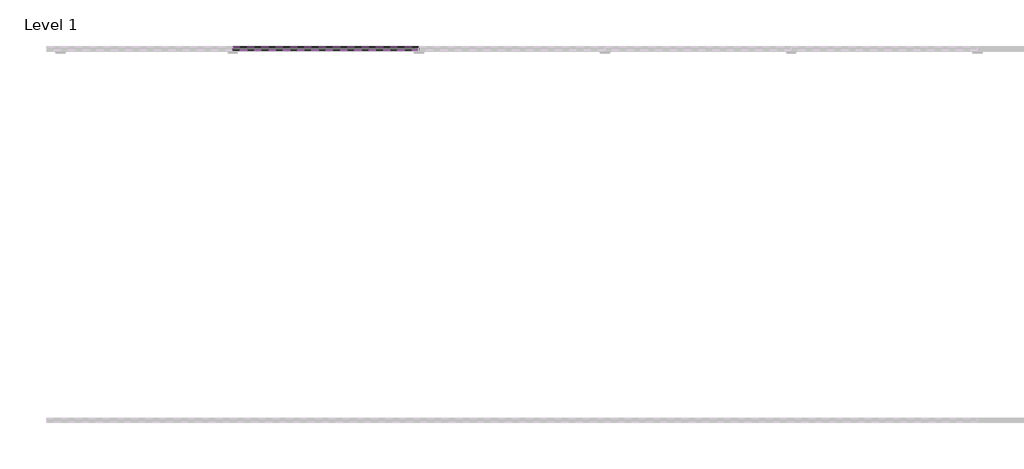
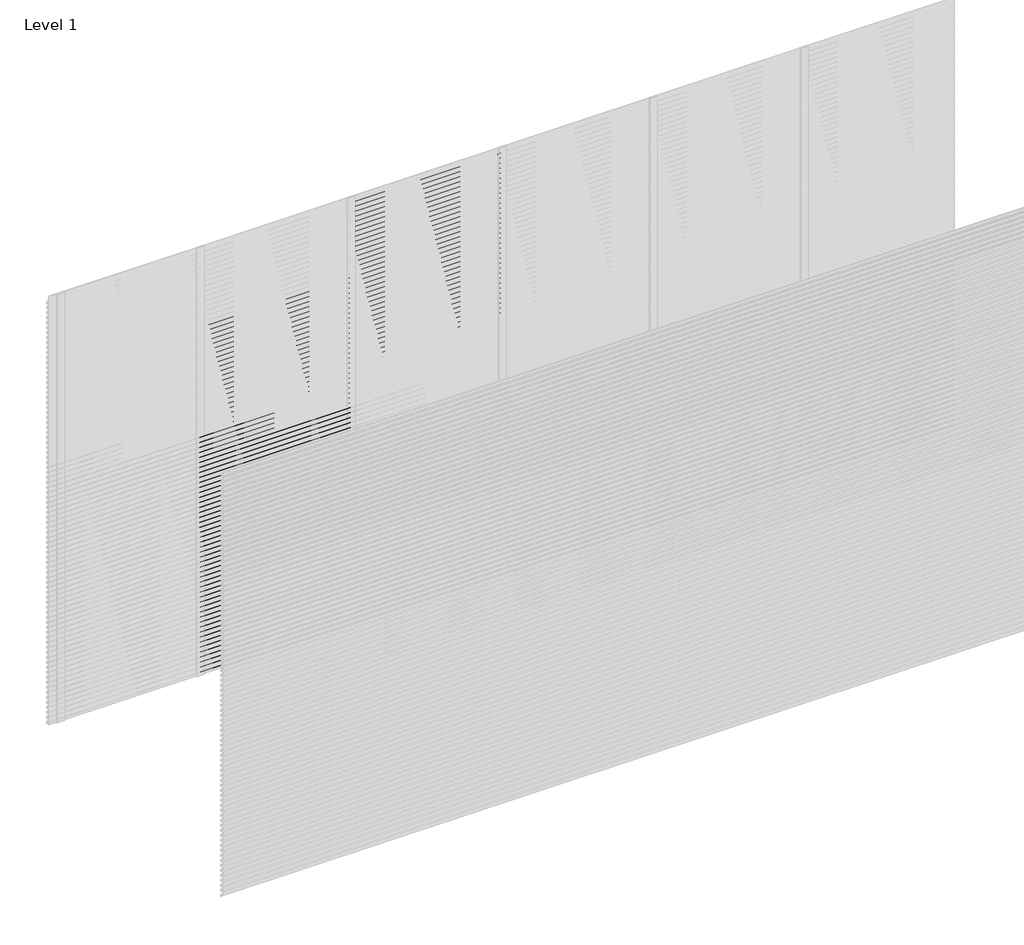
# One storey, part 22 of 25: 103 proxies.
"""IFC4 building model written with IfcOpenShell, lengths in millimetres."""

from ifc_helpers import new_model, si_unit, frame, origin, place, context, project, spatial, polyline, outline, extrude, element, save

model = new_model("IFC4")

# Units and contexts
model_context = context("Model", 3, world=origin())
ifc_project = project(units=[si_unit("LENGTHUNIT", "METRE", prefix="MILLI")], contexts=[model_context])

# Site, building, storey
site = spatial("IfcSite", under=ifc_project)
building = spatial("IfcBuilding", under=site)
storey = spatial("IfcBuildingStorey", under=building, Name="Level 1", Elevation=0.0)

# Proxies
placement = place(None, origin())
element("IfcBuildingElementProxy", 1, Name="Wall Sweeps", at=placement, inside=storey, context=model_context, shape_type="SweptSolid", body=[
    extrude(outline(polyline([(5.0, 2450.0), (5.0, 2438.942893), (24.0, 2423.0), (24.0, 2410.0), (3.0, 2427.6210923), (3.0, 2450.0), (5.0, 2450.0)])), frame((1000.0, 0.0, 0.0), z_axis=(1.0, 0.0, 0.0), x_axis=(0.0, 1.0, 0.0)), (0.0, 0.0, 1.0), 1000.0),
])
element("IfcBuildingElementProxy", 2, Name="Wall Sweeps", at=placement, inside=storey, context=model_context, shape_type="SweptSolid", body=[
    extrude(outline(polyline([(5.0, 2415.0), (5.0, 2403.942893), (24.0, 2388.0), (24.0, 2375.0), (3.0, 2392.6210923), (3.0, 2415.0), (5.0, 2415.0)])), frame((1000.0, 0.0, 0.0), z_axis=(1.0, 0.0, 0.0), x_axis=(0.0, 1.0, 0.0)), (0.0, 0.0, 1.0), 1000.0),
])
element("IfcBuildingElementProxy", 3, Name="Wall Sweeps", at=placement, inside=storey, context=model_context, shape_type="SweptSolid", body=[
    extrude(outline(polyline([(5.0, 2380.0), (5.0, 2368.942893), (24.0, 2353.0), (24.0, 2340.0), (3.0, 2357.6210923), (3.0, 2380.0), (5.0, 2380.0)])), frame((1000.0, 0.0, 0.0), z_axis=(1.0, 0.0, 0.0), x_axis=(0.0, 1.0, 0.0)), (0.0, 0.0, 1.0), 1000.0),
])
element("IfcBuildingElementProxy", 4, Name="Wall Sweeps", at=placement, inside=storey, context=model_context, shape_type="SweptSolid", body=[
    extrude(outline(polyline([(5.0, 2345.0), (5.0, 2333.942893), (24.0, 2318.0), (24.0, 2305.0), (3.0, 2322.6210923), (3.0, 2345.0), (5.0, 2345.0)])), frame((1000.0, 0.0, 0.0), z_axis=(1.0, 0.0, 0.0), x_axis=(0.0, 1.0, 0.0)), (0.0, 0.0, 1.0), 1000.0),
])
element("IfcBuildingElementProxy", 5, Name="Wall Sweeps", at=placement, inside=storey, context=model_context, shape_type="SweptSolid", body=[
    extrude(outline(polyline([(5.0, 2310.0), (5.0, 2298.942893), (24.0, 2283.0), (24.0, 2270.0), (3.0, 2287.6210923), (3.0, 2310.0), (5.0, 2310.0)])), frame((1000.0, 0.0, 0.0), z_axis=(1.0, 0.0, 0.0), x_axis=(0.0, 1.0, 0.0)), (0.0, 0.0, 1.0), 1000.0),
])
element("IfcBuildingElementProxy", 6, Name="Wall Sweeps", at=placement, inside=storey, context=model_context, shape_type="SweptSolid", body=[
    extrude(outline(polyline([(5.0, 2275.0), (5.0, 2263.942893), (24.0, 2248.0), (24.0, 2235.0), (3.0, 2252.6210923), (3.0, 2275.0), (5.0, 2275.0)])), frame((1000.0, 0.0, 0.0), z_axis=(1.0, 0.0, 0.0), x_axis=(0.0, 1.0, 0.0)), (0.0, 0.0, 1.0), 1000.0),
])
element("IfcBuildingElementProxy", 7, Name="Wall Sweeps", at=placement, inside=storey, context=model_context, shape_type="SweptSolid", body=[
    extrude(outline(polyline([(5.0, 2240.0), (5.0, 2228.942893), (24.0, 2213.0), (24.0, 2200.0), (3.0, 2217.6210923), (3.0, 2240.0), (5.0, 2240.0)])), frame((1000.0, 0.0, 0.0), z_axis=(1.0, 0.0, 0.0), x_axis=(0.0, 1.0, 0.0)), (0.0, 0.0, 1.0), 1000.0),
])
element("IfcBuildingElementProxy", 8, Name="Wall Sweeps", at=placement, inside=storey, context=model_context, shape_type="SweptSolid", body=[
    extrude(outline(polyline([(5.0, 2205.0), (5.0, 2193.942893), (24.0, 2178.0), (24.0, 2165.0), (3.0, 2182.6210923), (3.0, 2205.0), (5.0, 2205.0)])), frame((1000.0, 0.0, 0.0), z_axis=(1.0, 0.0, 0.0), x_axis=(0.0, 1.0, 0.0)), (0.0, 0.0, 1.0), 1000.0),
])
element("IfcBuildingElementProxy", 9, Name="Wall Sweeps", at=placement, inside=storey, context=model_context, shape_type="SweptSolid", body=[
    extrude(outline(polyline([(5.0, 2170.0), (5.0, 2158.942893), (24.0, 2143.0), (24.0, 2130.0), (3.0, 2147.6210923), (3.0, 2170.0), (5.0, 2170.0)])), frame((1000.0, 0.0, 0.0), z_axis=(1.0, 0.0, 0.0), x_axis=(0.0, 1.0, 0.0)), (0.0, 0.0, 1.0), 1000.0),
])
element("IfcBuildingElementProxy", 10, Name="Wall Sweeps", at=placement, inside=storey, context=model_context, shape_type="SweptSolid", body=[
    extrude(outline(polyline([(5.0, 2135.0), (5.0, 2123.942893), (24.0, 2108.0), (24.0, 2095.0), (3.0, 2112.6210923), (3.0, 2135.0), (5.0, 2135.0)])), frame((1000.0, 0.0, 0.0), z_axis=(1.0, 0.0, 0.0), x_axis=(0.0, 1.0, 0.0)), (0.0, 0.0, 1.0), 1000.0),
])
element("IfcBuildingElementProxy", 11, Name="Wall Sweeps", at=placement, inside=storey, context=model_context, shape_type="SweptSolid", body=[
    extrude(outline(polyline([(5.0, 2100.0), (5.0, 2088.942893), (24.0, 2073.0), (24.0, 2060.0), (3.0, 2077.6210923), (3.0, 2100.0), (5.0, 2100.0)])), frame((1000.0, 0.0, 0.0), z_axis=(1.0, 0.0, 0.0), x_axis=(0.0, 1.0, 0.0)), (0.0, 0.0, 1.0), 1000.0),
])
element("IfcBuildingElementProxy", 12, Name="Wall Sweeps", at=placement, inside=storey, context=model_context, shape_type="SweptSolid", body=[
    extrude(outline(polyline([(5.0, 2065.0), (5.0, 2053.942893), (24.0, 2038.0), (24.0, 2025.0), (3.0, 2042.6210923), (3.0, 2065.0), (5.0, 2065.0)])), frame((1000.0, 0.0, 0.0), z_axis=(1.0, 0.0, 0.0), x_axis=(0.0, 1.0, 0.0)), (0.0, 0.0, 1.0), 1000.0),
])
element("IfcBuildingElementProxy", 13, Name="Wall Sweeps", at=placement, inside=storey, context=model_context, shape_type="SweptSolid", body=[
    extrude(outline(polyline([(5.0, 2030.0), (5.0, 2018.942893), (24.0, 2003.0), (24.0, 1990.0), (3.0, 2007.6210923), (3.0, 2030.0), (5.0, 2030.0)])), frame((1000.0, 0.0, 0.0), z_axis=(1.0, 0.0, 0.0), x_axis=(0.0, 1.0, 0.0)), (0.0, 0.0, 1.0), 1000.0),
])
element("IfcBuildingElementProxy", 14, Name="Wall Sweeps", at=placement, inside=storey, context=model_context, shape_type="SweptSolid", body=[
    extrude(outline(polyline([(5.0, 1995.0), (5.0, 1983.942893), (24.0, 1968.0), (24.0, 1955.0), (3.0, 1972.6210923), (3.0, 1995.0), (5.0, 1995.0)])), frame((1000.0, 0.0, 0.0), z_axis=(1.0, 0.0, 0.0), x_axis=(0.0, 1.0, 0.0)), (0.0, 0.0, 1.0), 1000.0),
])
element("IfcBuildingElementProxy", 15, Name="Wall Sweeps", at=placement, inside=storey, context=model_context, shape_type="SweptSolid", body=[
    extrude(outline(polyline([(5.0, 1960.0), (5.0, 1948.942893), (24.0, 1933.0), (24.0, 1920.0), (3.0, 1937.6210923), (3.0, 1960.0), (5.0, 1960.0)])), frame((1000.0, 0.0, 0.0), z_axis=(1.0, 0.0, 0.0), x_axis=(0.0, 1.0, 0.0)), (0.0, 0.0, 1.0), 1000.0),
])
element("IfcBuildingElementProxy", 16, Name="Wall Sweeps", at=placement, inside=storey, context=model_context, shape_type="SweptSolid", body=[
    extrude(outline(polyline([(5.0, 1925.0), (5.0, 1913.942893), (24.0, 1898.0), (24.0, 1885.0), (3.0, 1902.6210923), (3.0, 1925.0), (5.0, 1925.0)])), frame((1000.0, 0.0, 0.0), z_axis=(1.0, 0.0, 0.0), x_axis=(0.0, 1.0, 0.0)), (0.0, 0.0, 1.0), 1000.0),
])
element("IfcBuildingElementProxy", 17, Name="Wall Sweeps", at=placement, inside=storey, context=model_context, shape_type="SweptSolid", body=[
    extrude(outline(polyline([(5.0, 1890.0), (5.0, 1878.942893), (24.0, 1863.0), (24.0, 1850.0), (3.0, 1867.6210923), (3.0, 1890.0), (5.0, 1890.0)])), frame((1000.0, 0.0, 0.0), z_axis=(1.0, 0.0, 0.0), x_axis=(0.0, 1.0, 0.0)), (0.0, 0.0, 1.0), 1000.0),
])
element("IfcBuildingElementProxy", 18, Name="Wall Sweeps", at=placement, inside=storey, context=model_context, shape_type="SweptSolid", body=[
    extrude(outline(polyline([(5.0, 1855.0), (5.0, 1843.942893), (24.0, 1828.0), (24.0, 1815.0), (3.0, 1832.6210923), (3.0, 1855.0), (5.0, 1855.0)])), frame((1000.0, 0.0, 0.0), z_axis=(1.0, 0.0, 0.0), x_axis=(0.0, 1.0, 0.0)), (0.0, 0.0, 1.0), 1000.0),
])
element("IfcBuildingElementProxy", 19, Name="Wall Sweeps", at=placement, inside=storey, context=model_context, shape_type="SweptSolid", body=[
    extrude(outline(polyline([(5.0, 1820.0), (5.0, 1808.942893), (24.0, 1793.0), (24.0, 1780.0), (3.0, 1797.6210923), (3.0, 1820.0), (5.0, 1820.0)])), frame((1000.0, 0.0, 0.0), z_axis=(1.0, 0.0, 0.0), x_axis=(0.0, 1.0, 0.0)), (0.0, 0.0, 1.0), 1000.0),
])
element("IfcBuildingElementProxy", 20, Name="Wall Sweeps", at=placement, inside=storey, context=model_context, shape_type="SweptSolid", body=[
    extrude(outline(polyline([(5.0, 1785.0), (5.0, 1773.942893), (24.0, 1758.0), (24.0, 1745.0), (3.0, 1762.6210923), (3.0, 1785.0), (5.0, 1785.0)])), frame((1000.0, 0.0, 0.0), z_axis=(1.0, 0.0, 0.0), x_axis=(0.0, 1.0, 0.0)), (0.0, 0.0, 1.0), 1000.0),
])
element("IfcBuildingElementProxy", 21, Name="Wall Sweeps", at=placement, inside=storey, context=model_context, shape_type="SweptSolid", body=[
    extrude(outline(polyline([(5.0, 1750.0), (5.0, 1738.942893), (24.0, 1723.0), (24.0, 1710.0), (3.0, 1727.6210923), (3.0, 1750.0), (5.0, 1750.0)])), frame((1000.0, 0.0, 0.0), z_axis=(1.0, 0.0, 0.0), x_axis=(0.0, 1.0, 0.0)), (0.0, 0.0, 1.0), 1000.0),
])
element("IfcBuildingElementProxy", 22, Name="Wall Sweeps", at=placement, inside=storey, context=model_context, shape_type="SweptSolid", body=[
    extrude(outline(polyline([(5.0, 1715.0), (5.0, 1703.942893), (24.0, 1688.0), (24.0, 1675.0), (3.0, 1692.6210923), (3.0, 1715.0), (5.0, 1715.0)])), frame((1000.0, 0.0, 0.0), z_axis=(1.0, 0.0, 0.0), x_axis=(0.0, 1.0, 0.0)), (0.0, 0.0, 1.0), 1000.0),
])
element("IfcBuildingElementProxy", 23, Name="Wall Sweeps", at=placement, inside=storey, context=model_context, shape_type="SweptSolid", body=[
    extrude(outline(polyline([(5.0, 1680.0), (5.0, 1668.942893), (24.0, 1653.0), (24.0, 1640.0), (3.0, 1657.6210923), (3.0, 1680.0), (5.0, 1680.0)])), frame((1000.0, 0.0, 0.0), z_axis=(1.0, 0.0, 0.0), x_axis=(0.0, 1.0, 0.0)), (0.0, 0.0, 1.0), 1000.0),
])
element("IfcBuildingElementProxy", 24, Name="Wall Sweeps", at=placement, inside=storey, context=model_context, shape_type="SweptSolid", body=[
    extrude(outline(polyline([(5.0, 1645.0), (5.0, 1633.942893), (24.0, 1618.0), (24.0, 1605.0), (3.0, 1622.6210923), (3.0, 1645.0), (5.0, 1645.0)])), frame((1000.0, 0.0, 0.0), z_axis=(1.0, 0.0, 0.0), x_axis=(0.0, 1.0, 0.0)), (0.0, 0.0, 1.0), 1000.0),
])
element("IfcBuildingElementProxy", 25, Name="Wall Sweeps", at=placement, inside=storey, context=model_context, shape_type="SweptSolid", body=[
    extrude(outline(polyline([(5.0, 1610.0), (5.0, 1598.942893), (24.0, 1583.0), (24.0, 1570.0), (3.0, 1587.6210923), (3.0, 1610.0), (5.0, 1610.0)])), frame((1000.0, 0.0, 0.0), z_axis=(1.0, 0.0, 0.0), x_axis=(0.0, 1.0, 0.0)), (0.0, 0.0, 1.0), 1000.0),
])
element("IfcBuildingElementProxy", 26, Name="Wall Sweeps", at=placement, inside=storey, context=model_context, shape_type="SweptSolid", body=[
    extrude(outline(polyline([(5.0, 1575.0), (5.0, 1563.942893), (24.0, 1548.0), (24.0, 1535.0), (3.0, 1552.6210923), (3.0, 1575.0), (5.0, 1575.0)])), frame((1000.0, 0.0, 0.0), z_axis=(1.0, 0.0, 0.0), x_axis=(0.0, 1.0, 0.0)), (0.0, 0.0, 1.0), 1000.0),
])
element("IfcBuildingElementProxy", 27, Name="Wall Sweeps", at=placement, inside=storey, context=model_context, shape_type="SweptSolid", body=[
    extrude(outline(polyline([(5.0, 1540.0), (5.0, 1528.942893), (24.0, 1513.0), (24.0, 1500.0), (3.0, 1517.6210923), (3.0, 1540.0), (5.0, 1540.0)])), frame((1000.0, 0.0, 0.0), z_axis=(1.0, 0.0, 0.0), x_axis=(0.0, 1.0, 0.0)), (0.0, 0.0, 1.0), 1000.0),
])
element("IfcBuildingElementProxy", 28, Name="Wall Sweeps", at=placement, inside=storey, context=model_context, shape_type="SweptSolid", body=[
    extrude(outline(polyline([(5.0, 1505.0), (5.0, 1493.942893), (24.0, 1478.0), (24.0, 1465.0), (3.0, 1482.6210923), (3.0, 1505.0), (5.0, 1505.0)])), frame((1000.0, 0.0, 0.0), z_axis=(1.0, 0.0, 0.0), x_axis=(0.0, 1.0, 0.0)), (0.0, 0.0, 1.0), 1000.0),
])
element("IfcBuildingElementProxy", 29, Name="Wall Sweeps", at=placement, inside=storey, context=model_context, shape_type="SweptSolid", body=[
    extrude(outline(polyline([(5.0, 1470.0), (5.0, 1458.942893), (24.0, 1443.0), (24.0, 1430.0), (3.0, 1447.6210923), (3.0, 1470.0), (5.0, 1470.0)])), frame((1000.0, 0.0, 0.0), z_axis=(1.0, 0.0, 0.0), x_axis=(0.0, 1.0, 0.0)), (0.0, 0.0, 1.0), 1000.0),
])
element("IfcBuildingElementProxy", 30, Name="Wall Sweeps", at=placement, inside=storey, context=model_context, shape_type="SweptSolid", body=[
    extrude(outline(polyline([(5.0, 1435.0), (5.0, 1423.942893), (24.0, 1408.0), (24.0, 1395.0), (3.0, 1412.6210923), (3.0, 1435.0), (5.0, 1435.0)])), frame((1000.0, 0.0, 0.0), z_axis=(1.0, 0.0, 0.0), x_axis=(0.0, 1.0, 0.0)), (0.0, 0.0, 1.0), 1000.0),
])
element("IfcBuildingElementProxy", 31, Name="Wall Sweeps", at=placement, inside=storey, context=model_context, shape_type="SweptSolid", body=[
    extrude(outline(polyline([(5.0, 1400.0), (5.0, 1388.942893), (24.0, 1373.0), (24.0, 1360.0), (3.0, 1377.6210923), (3.0, 1400.0), (5.0, 1400.0)])), frame((1000.0, 0.0, 0.0), z_axis=(1.0, 0.0, 0.0), x_axis=(0.0, 1.0, 0.0)), (0.0, 0.0, 1.0), 1000.0),
])
element("IfcBuildingElementProxy", 32, Name="Wall Sweeps", at=placement, inside=storey, context=model_context, shape_type="SweptSolid", body=[
    extrude(outline(polyline([(5.0, 1365.0), (5.0, 1353.942893), (24.0, 1338.0), (24.0, 1325.0), (3.0, 1342.6210923), (3.0, 1365.0), (5.0, 1365.0)])), frame((1000.0, 0.0, 0.0), z_axis=(1.0, 0.0, 0.0), x_axis=(0.0, 1.0, 0.0)), (0.0, 0.0, 1.0), 1000.0),
])
element("IfcBuildingElementProxy", 33, Name="Wall Sweeps", at=placement, inside=storey, context=model_context, shape_type="SweptSolid", body=[
    extrude(outline(polyline([(5.0, 1330.0), (5.0, 1318.942893), (24.0, 1303.0), (24.0, 1290.0), (3.0, 1307.6210923), (3.0, 1330.0), (5.0, 1330.0)])), frame((1000.0, 0.0, 0.0), z_axis=(1.0, 0.0, 0.0), x_axis=(0.0, 1.0, 0.0)), (0.0, 0.0, 1.0), 1000.0),
])
element("IfcBuildingElementProxy", 34, Name="Wall Sweeps", at=placement, inside=storey, context=model_context, shape_type="SweptSolid", body=[
    extrude(outline(polyline([(5.0, 1295.0), (5.0, 1283.942893), (24.0, 1268.0), (24.0, 1255.0), (3.0, 1272.6210923), (3.0, 1295.0), (5.0, 1295.0)])), frame((1000.0, 0.0, 0.0), z_axis=(1.0, 0.0, 0.0), x_axis=(0.0, 1.0, 0.0)), (0.0, 0.0, 1.0), 1000.0),
])
element("IfcBuildingElementProxy", 35, Name="Wall Sweeps", at=placement, inside=storey, context=model_context, shape_type="SweptSolid", body=[
    extrude(outline(polyline([(5.0, 1260.0), (5.0, 1248.942893), (24.0, 1233.0), (24.0, 1220.0), (3.0, 1237.6210923), (3.0, 1260.0), (5.0, 1260.0)])), frame((1000.0, 0.0, 0.0), z_axis=(1.0, 0.0, 0.0), x_axis=(0.0, 1.0, 0.0)), (0.0, 0.0, 1.0), 1000.0),
])
element("IfcBuildingElementProxy", 36, Name="Wall Sweeps", at=placement, inside=storey, context=model_context, shape_type="SweptSolid", body=[
    extrude(outline(polyline([(5.0, 1225.0), (5.0, 1213.942893), (24.0, 1198.0), (24.0, 1185.0), (3.0, 1202.6210923), (3.0, 1225.0), (5.0, 1225.0)])), frame((1000.0, 0.0, 0.0), z_axis=(1.0, 0.0, 0.0), x_axis=(0.0, 1.0, 0.0)), (0.0, 0.0, 1.0), 1000.0),
])
element("IfcBuildingElementProxy", 37, Name="Wall Sweeps", at=placement, inside=storey, context=model_context, shape_type="SweptSolid", body=[
    extrude(outline(polyline([(5.0, 1190.0), (5.0, 1178.942893), (24.0, 1163.0), (24.0, 1150.0), (3.0, 1167.6210923), (3.0, 1190.0), (5.0, 1190.0)])), frame((1000.0, 0.0, 0.0), z_axis=(1.0, 0.0, 0.0), x_axis=(0.0, 1.0, 0.0)), (0.0, 0.0, 1.0), 1000.0),
])
element("IfcBuildingElementProxy", 38, Name="Wall Sweeps", at=placement, inside=storey, context=model_context, shape_type="SweptSolid", body=[
    extrude(outline(polyline([(5.0, 1155.0), (5.0, 1143.942893), (24.0, 1128.0), (24.0, 1115.0), (3.0, 1132.6210923), (3.0, 1155.0), (5.0, 1155.0)])), frame((1000.0, 0.0, 0.0), z_axis=(1.0, 0.0, 0.0), x_axis=(0.0, 1.0, 0.0)), (0.0, 0.0, 1.0), 1000.0),
])
element("IfcBuildingElementProxy", 39, Name="Wall Sweeps", at=placement, inside=storey, context=model_context, shape_type="SweptSolid", body=[
    extrude(outline(polyline([(5.0, 1120.0), (5.0, 1108.942893), (24.0, 1093.0), (24.0, 1080.0), (3.0, 1097.6210923), (3.0, 1120.0), (5.0, 1120.0)])), frame((1000.0, 0.0, 0.0), z_axis=(1.0, 0.0, 0.0), x_axis=(0.0, 1.0, 0.0)), (0.0, 0.0, 1.0), 1000.0),
])
element("IfcBuildingElementProxy", 40, Name="Wall Sweeps", at=placement, inside=storey, context=model_context, shape_type="SweptSolid", body=[
    extrude(outline(polyline([(5.0, 1085.0), (5.0, 1073.942893), (24.0, 1058.0), (24.0, 1045.0), (3.0, 1062.6210923), (3.0, 1085.0), (5.0, 1085.0)])), frame((1000.0, 0.0, 0.0), z_axis=(1.0, 0.0, 0.0), x_axis=(0.0, 1.0, 0.0)), (0.0, 0.0, 1.0), 1000.0),
])
element("IfcBuildingElementProxy", 41, Name="Wall Sweeps", at=placement, inside=storey, context=model_context, shape_type="SweptSolid", body=[
    extrude(outline(polyline([(5.0, 1050.0), (5.0, 1038.942893), (24.0, 1023.0), (24.0, 1010.0), (3.0, 1027.6210923), (3.0, 1050.0), (5.0, 1050.0)])), frame((1000.0, 0.0, 0.0), z_axis=(1.0, 0.0, 0.0), x_axis=(0.0, 1.0, 0.0)), (0.0, 0.0, 1.0), 1000.0),
])
element("IfcBuildingElementProxy", 42, Name="Wall Sweeps", at=placement, inside=storey, context=model_context, shape_type="SweptSolid", body=[
    extrude(outline(polyline([(5.0, 1015.0), (5.0, 1003.942893), (24.0, 988.0), (24.0, 975.0), (3.0, 992.6210923), (3.0, 1015.0), (5.0, 1015.0)])), frame((1000.0, 0.0, 0.0), z_axis=(1.0, 0.0, 0.0), x_axis=(0.0, 1.0, 0.0)), (0.0, 0.0, 1.0), 1000.0),
])
element("IfcBuildingElementProxy", 43, Name="Wall Sweeps", at=placement, inside=storey, context=model_context, shape_type="SweptSolid", body=[
    extrude(outline(polyline([(5.0, 980.0), (5.0, 968.942893), (24.0, 953.0), (24.0, 940.0), (3.0, 957.6210923), (3.0, 980.0), (5.0, 980.0)])), frame((1000.0, 0.0, 0.0), z_axis=(1.0, 0.0, 0.0), x_axis=(0.0, 1.0, 0.0)), (0.0, 0.0, 1.0), 1000.0),
])
element("IfcBuildingElementProxy", 44, Name="Wall Sweeps", at=placement, inside=storey, context=model_context, shape_type="SweptSolid", body=[
    extrude(outline(polyline([(5.0, 945.0), (5.0, 933.942893), (24.0, 918.0), (24.0, 905.0), (3.0, 922.6210923), (3.0, 945.0), (5.0, 945.0)])), frame((1000.0, 0.0, 0.0), z_axis=(1.0, 0.0, 0.0), x_axis=(0.0, 1.0, 0.0)), (0.0, 0.0, 1.0), 1000.0),
])
element("IfcBuildingElementProxy", 45, Name="Wall Sweeps", at=placement, inside=storey, context=model_context, shape_type="SweptSolid", body=[
    extrude(outline(polyline([(5.0, 910.0), (5.0, 898.942893), (24.0, 883.0), (24.0, 870.0), (3.0, 887.6210923), (3.0, 910.0), (5.0, 910.0)])), frame((1000.0, 0.0, 0.0), z_axis=(1.0, 0.0, 0.0), x_axis=(0.0, 1.0, 0.0)), (0.0, 0.0, 1.0), 1000.0),
])
element("IfcBuildingElementProxy", 46, Name="Wall Sweeps", at=placement, inside=storey, context=model_context, shape_type="SweptSolid", body=[
    extrude(outline(polyline([(5.0, 875.0), (5.0, 863.942893), (24.0, 848.0), (24.0, 835.0), (3.0, 852.6210923), (3.0, 875.0), (5.0, 875.0)])), frame((1000.0, 0.0, 0.0), z_axis=(1.0, 0.0, 0.0), x_axis=(0.0, 1.0, 0.0)), (0.0, 0.0, 1.0), 1000.0),
])
element("IfcBuildingElementProxy", 47, Name="Wall Sweeps", at=placement, inside=storey, context=model_context, shape_type="SweptSolid", body=[
    extrude(outline(polyline([(5.0, 840.0), (5.0, 828.942893), (24.0, 813.0), (24.0, 800.0), (3.0, 817.6210923), (3.0, 840.0), (5.0, 840.0)])), frame((1000.0, 0.0, 0.0), z_axis=(1.0, 0.0, 0.0), x_axis=(0.0, 1.0, 0.0)), (0.0, 0.0, 1.0), 1000.0),
])
element("IfcBuildingElementProxy", 48, Name="Wall Sweeps", at=placement, inside=storey, context=model_context, shape_type="SweptSolid", body=[
    extrude(outline(polyline([(5.0, 805.0), (5.0, 793.942893), (24.0, 778.0), (24.0, 765.0), (3.0, 782.6210923), (3.0, 805.0), (5.0, 805.0)])), frame((1000.0, 0.0, 0.0), z_axis=(1.0, 0.0, 0.0), x_axis=(0.0, 1.0, 0.0)), (0.0, 0.0, 1.0), 1000.0),
])
element("IfcBuildingElementProxy", 49, Name="Wall Sweeps", at=placement, inside=storey, context=model_context, shape_type="SweptSolid", body=[
    extrude(outline(polyline([(5.0, 770.0), (5.0, 758.942893), (24.0, 743.0), (24.0, 730.0), (3.0, 747.6210923), (3.0, 770.0), (5.0, 770.0)])), frame((1000.0, 0.0, 0.0), z_axis=(1.0, 0.0, 0.0), x_axis=(0.0, 1.0, 0.0)), (0.0, 0.0, 1.0), 1000.0),
])
element("IfcBuildingElementProxy", 50, Name="Wall Sweeps", at=placement, inside=storey, context=model_context, shape_type="SweptSolid", body=[
    extrude(outline(polyline([(5.0, 735.0), (5.0, 723.942893), (24.0, 708.0), (24.0, 695.0), (3.0, 712.6210923), (3.0, 735.0), (5.0, 735.0)])), frame((1000.0, 0.0, 0.0), z_axis=(1.0, 0.0, 0.0), x_axis=(0.0, 1.0, 0.0)), (0.0, 0.0, 1.0), 1000.0),
])
element("IfcBuildingElementProxy", 51, Name="Wall Sweeps", at=placement, inside=storey, context=model_context, shape_type="SweptSolid", body=[
    extrude(outline(polyline([(5.0, 700.0), (5.0, 688.942893), (24.0, 673.0), (24.0, 660.0), (3.0, 677.6210923), (3.0, 700.0), (5.0, 700.0)])), frame((1000.0, 0.0, 0.0), z_axis=(1.0, 0.0, 0.0), x_axis=(0.0, 1.0, 0.0)), (0.0, 0.0, 1.0), 1000.0),
])
element("IfcBuildingElementProxy", 52, Name="Wall Sweeps", at=placement, inside=storey, context=model_context, shape_type="SweptSolid", body=[
    extrude(outline(polyline([(5.0, 665.0), (5.0, 653.942893), (24.0, 638.0), (24.0, 625.0), (3.0, 642.6210923), (3.0, 665.0), (5.0, 665.0)])), frame((1000.0, 0.0, 0.0), z_axis=(1.0, 0.0, 0.0), x_axis=(0.0, 1.0, 0.0)), (0.0, 0.0, 1.0), 1000.0),
])
element("IfcBuildingElementProxy", 53, Name="Wall Sweeps", at=placement, inside=storey, context=model_context, shape_type="SweptSolid", body=[
    extrude(outline(polyline([(5.0, 630.0), (5.0, 618.942893), (24.0, 603.0), (24.0, 590.0), (3.0, 607.6210923), (3.0, 630.0), (5.0, 630.0)])), frame((1000.0, 0.0, 0.0), z_axis=(1.0, 0.0, 0.0), x_axis=(0.0, 1.0, 0.0)), (0.0, 0.0, 1.0), 1000.0),
])
element("IfcBuildingElementProxy", 54, Name="Wall Sweeps", at=placement, inside=storey, context=model_context, shape_type="SweptSolid", body=[
    extrude(outline(polyline([(5.0, 595.0), (5.0, 583.942893), (24.0, 568.0), (24.0, 555.0), (3.0, 572.6210923), (3.0, 595.0), (5.0, 595.0)])), frame((1000.0, 0.0, 0.0), z_axis=(1.0, 0.0, 0.0), x_axis=(0.0, 1.0, 0.0)), (0.0, 0.0, 1.0), 1000.0),
])
element("IfcBuildingElementProxy", 55, Name="Wall Sweeps", at=placement, inside=storey, context=model_context, shape_type="SweptSolid", body=[
    extrude(outline(polyline([(5.0, 560.0), (5.0, 548.942893), (24.0, 533.0), (24.0, 520.0), (3.0, 537.6210923), (3.0, 560.0), (5.0, 560.0)])), frame((1000.0, 0.0, 0.0), z_axis=(1.0, 0.0, 0.0), x_axis=(0.0, 1.0, 0.0)), (0.0, 0.0, 1.0), 1000.0),
])
element("IfcBuildingElementProxy", 56, Name="Wall Sweeps", at=placement, inside=storey, context=model_context, shape_type="SweptSolid", body=[
    extrude(outline(polyline([(5.0, 525.0), (5.0, 513.942893), (24.0, 498.0), (24.0, 485.0), (3.0, 502.6210923), (3.0, 525.0), (5.0, 525.0)])), frame((1000.0, 0.0, 0.0), z_axis=(1.0, 0.0, 0.0), x_axis=(0.0, 1.0, 0.0)), (0.0, 0.0, 1.0), 1000.0),
])
element("IfcBuildingElementProxy", 57, Name="Wall Sweeps", at=placement, inside=storey, context=model_context, shape_type="SweptSolid", body=[
    extrude(outline(polyline([(5.0, 490.0), (5.0, 478.942893), (24.0, 463.0), (24.0, 450.0), (3.0, 467.6210923), (3.0, 490.0), (5.0, 490.0)])), frame((1000.0, 0.0, 0.0), z_axis=(1.0, 0.0, 0.0), x_axis=(0.0, 1.0, 0.0)), (0.0, 0.0, 1.0), 1000.0),
])
element("IfcBuildingElementProxy", 58, Name="Wall Sweeps", at=placement, inside=storey, context=model_context, shape_type="SweptSolid", body=[
    extrude(outline(polyline([(5.0, 455.0), (5.0, 443.942893), (24.0, 428.0), (24.0, 415.0), (3.0, 432.6210923), (3.0, 455.0), (5.0, 455.0)])), frame((1000.0, 0.0, 0.0), z_axis=(1.0, 0.0, 0.0), x_axis=(0.0, 1.0, 0.0)), (0.0, 0.0, 1.0), 1000.0),
])
element("IfcBuildingElementProxy", 59, Name="Wall Sweeps", at=placement, inside=storey, context=model_context, shape_type="SweptSolid", body=[
    extrude(outline(polyline([(5.0, 420.0), (5.0, 408.942893), (24.0, 393.0), (24.0, 380.0), (3.0, 397.6210923), (3.0, 420.0), (5.0, 420.0)])), frame((1000.0, 0.0, 0.0), z_axis=(1.0, 0.0, 0.0), x_axis=(0.0, 1.0, 0.0)), (0.0, 0.0, 1.0), 1000.0),
])
element("IfcBuildingElementProxy", 60, Name="Wall Sweeps", at=placement, inside=storey, context=model_context, shape_type="SweptSolid", body=[
    extrude(outline(polyline([(5.0, 385.0), (5.0, 373.942893), (24.0, 358.0), (24.0, 345.0), (3.0, 362.6210923), (3.0, 385.0), (5.0, 385.0)])), frame((1000.0, 0.0, 0.0), z_axis=(1.0, 0.0, 0.0), x_axis=(0.0, 1.0, 0.0)), (0.0, 0.0, 1.0), 1000.0),
])
element("IfcBuildingElementProxy", 61, Name="Wall Sweeps", at=placement, inside=storey, context=model_context, shape_type="SweptSolid", body=[
    extrude(outline(polyline([(5.0, 350.0), (5.0, 338.942893), (24.0, 323.0), (24.0, 310.0), (3.0, 327.6210923), (3.0, 350.0), (5.0, 350.0)])), frame((1000.0, 0.0, 0.0), z_axis=(1.0, 0.0, 0.0), x_axis=(0.0, 1.0, 0.0)), (0.0, 0.0, 1.0), 1000.0),
])
element("IfcBuildingElementProxy", 62, Name="Wall Sweeps", at=placement, inside=storey, context=model_context, shape_type="SweptSolid", body=[
    extrude(outline(polyline([(5.0, 315.0), (5.0, 303.942893), (24.0, 288.0), (24.0, 275.0), (3.0, 292.6210923), (3.0, 315.0), (5.0, 315.0)])), frame((1000.0, 0.0, 0.0), z_axis=(1.0, 0.0, 0.0), x_axis=(0.0, 1.0, 0.0)), (0.0, 0.0, 1.0), 1000.0),
])
element("IfcBuildingElementProxy", 63, Name="Wall Sweeps", at=placement, inside=storey, context=model_context, shape_type="SweptSolid", body=[
    extrude(outline(polyline([(5.0, 280.0), (5.0, 268.942893), (24.0, 253.0), (24.0, 240.0), (3.0, 257.6210923), (3.0, 280.0), (5.0, 280.0)])), frame((1000.0, 0.0, 0.0), z_axis=(1.0, 0.0, 0.0), x_axis=(0.0, 1.0, 0.0)), (0.0, 0.0, 1.0), 1000.0),
])
element("IfcBuildingElementProxy", 64, Name="Wall Sweeps", at=placement, inside=storey, context=model_context, shape_type="SweptSolid", body=[
    extrude(outline(polyline([(5.0, 245.0), (5.0, 233.942893), (24.0, 218.0), (24.0, 205.0), (3.0, 222.6210923), (3.0, 245.0), (5.0, 245.0)])), frame((1000.0, 0.0, 0.0), z_axis=(1.0, 0.0, 0.0), x_axis=(0.0, 1.0, 0.0)), (0.0, 0.0, 1.0), 1000.0),
])
element("IfcBuildingElementProxy", 65, Name="Wall Sweeps", at=placement, inside=storey, context=model_context, shape_type="SweptSolid", body=[
    extrude(outline(polyline([(5.0, 210.0), (5.0, 198.942893), (24.0, 183.0), (24.0, 170.0), (3.0, 187.6210923), (3.0, 210.0), (5.0, 210.0)])), frame((1000.0, 0.0, 0.0), z_axis=(1.0, 0.0, 0.0), x_axis=(0.0, 1.0, 0.0)), (0.0, 0.0, 1.0), 1000.0),
])
element("IfcBuildingElementProxy", 66, Name="Wall Sweeps", at=placement, inside=storey, context=model_context, shape_type="SweptSolid", body=[
    extrude(outline(polyline([(5.0, 175.0), (5.0, 163.942893), (24.0, 148.0), (24.0, 135.0), (3.0, 152.6210923), (3.0, 175.0), (5.0, 175.0)])), frame((1000.0, 0.0, 0.0), z_axis=(1.0, 0.0, 0.0), x_axis=(0.0, 1.0, 0.0)), (0.0, 0.0, 1.0), 1000.0),
])
element("IfcBuildingElementProxy", 67, Name="Wall Sweeps", at=placement, inside=storey, context=model_context, shape_type="SweptSolid", body=[
    extrude(outline(polyline([(5.0, 140.0), (5.0, 128.942893), (24.0, 113.0), (24.0, 100.0), (3.0, 117.6210923), (3.0, 140.0), (5.0, 140.0)])), frame((1000.0, 0.0, 0.0), z_axis=(1.0, 0.0, 0.0), x_axis=(0.0, 1.0, 0.0)), (0.0, 0.0, 1.0), 1000.0),
])
element("IfcBuildingElementProxy", 68, Name="Wall Sweeps", at=placement, inside=storey, context=model_context, shape_type="SweptSolid", body=[
    extrude(outline(polyline([(5.0, 105.0), (5.0, 93.942893), (24.0, 78.0), (24.0, 65.0), (3.0, 82.6210923), (3.0, 105.0), (5.0, 105.0)])), frame((1000.0, 0.0, 0.0), z_axis=(1.0, 0.0, 0.0), x_axis=(0.0, 1.0, 0.0)), (0.0, 0.0, 1.0), 1000.0),
])
element("IfcBuildingElementProxy", 69, Name="Wall Sweeps", at=placement, inside=storey, context=model_context, shape_type="SweptSolid", body=[
    extrude(outline(polyline([(5.0, 70.0), (5.0, 58.942893), (24.0, 43.0), (24.0, 30.0), (3.0, 47.6210923), (3.0, 70.0), (5.0, 70.0)])), frame((1000.0, 0.0, 0.0), z_axis=(1.0, 0.0, 0.0), x_axis=(0.0, 1.0, 0.0)), (0.0, 0.0, 1.0), 1000.0),
])
element("IfcBuildingElementProxy", 70, Name="Wall Sweeps", at=placement, inside=storey, context=model_context, shape_type="SweptSolid", body=[
    extrude(outline(polyline([(5.0, 35.0), (5.0, 23.942893), (24.0, 8.0), (24.0, -5.0), (3.0, 12.6210923), (3.0, 35.0), (5.0, 35.0)])), frame((1000.0, 0.0, 0.0), z_axis=(1.0, 0.0, 0.0), x_axis=(0.0, 1.0, 0.0)), (0.0, 0.0, 1.0), 1000.0),
])
element("IfcBuildingElementProxy", 71, Name="Wall Sweeps", at=placement, inside=storey, context=model_context, shape_type="SweptSolid", body=[
    extrude(outline(polyline([(5.0, 2975.0), (5.0, 2963.942893), (24.0, 2948.0), (24.0, 2935.0), (3.0, 2952.6210923), (3.0, 2975.0), (5.0, 2975.0)])), frame((2000.0, 0.0, 0.0), z_axis=(1.0, 0.0, 0.0), x_axis=(0.0, 1.0, 0.0)), (0.0, 0.0, 1.0), 1000.0),
])
element("IfcBuildingElementProxy", 72, Name="Wall Sweeps", at=placement, inside=storey, context=model_context, shape_type="SweptSolid", body=[
    extrude(outline(polyline([(5.0, 2940.0), (5.0, 2928.942893), (24.0, 2913.0), (24.0, 2900.0), (3.0, 2917.6210923), (3.0, 2940.0), (5.0, 2940.0)])), frame((2000.0, 0.0, 0.0), z_axis=(1.0, 0.0, 0.0), x_axis=(0.0, 1.0, 0.0)), (0.0, 0.0, 1.0), 1000.0),
])
element("IfcBuildingElementProxy", 73, Name="Wall Sweeps", at=placement, inside=storey, context=model_context, shape_type="SweptSolid", body=[
    extrude(outline(polyline([(5.0, 2905.0), (5.0, 2893.942893), (24.0, 2878.0), (24.0, 2865.0), (3.0, 2882.6210923), (3.0, 2905.0), (5.0, 2905.0)])), frame((2000.0, 0.0, 0.0), z_axis=(1.0, 0.0, 0.0), x_axis=(0.0, 1.0, 0.0)), (0.0, 0.0, 1.0), 1000.0),
])
element("IfcBuildingElementProxy", 74, Name="Wall Sweeps", at=placement, inside=storey, context=model_context, shape_type="SweptSolid", body=[
    extrude(outline(polyline([(5.0, 2870.0), (5.0, 2858.942893), (24.0, 2843.0), (24.0, 2830.0), (3.0, 2847.6210923), (3.0, 2870.0), (5.0, 2870.0)])), frame((2000.0, 0.0, 0.0), z_axis=(1.0, 0.0, 0.0), x_axis=(0.0, 1.0, 0.0)), (0.0, 0.0, 1.0), 1000.0),
])
element("IfcBuildingElementProxy", 75, Name="Wall Sweeps", at=placement, inside=storey, context=model_context, shape_type="SweptSolid", body=[
    extrude(outline(polyline([(5.0, 2835.0), (5.0, 2823.942893), (24.0, 2808.0), (24.0, 2795.0), (3.0, 2812.6210923), (3.0, 2835.0), (5.0, 2835.0)])), frame((2000.0, 0.0, 0.0), z_axis=(1.0, 0.0, 0.0), x_axis=(0.0, 1.0, 0.0)), (0.0, 0.0, 1.0), 1000.0),
])
element("IfcBuildingElementProxy", 76, Name="Wall Sweeps", at=placement, inside=storey, context=model_context, shape_type="SweptSolid", body=[
    extrude(outline(polyline([(5.0, 2800.0), (5.0, 2788.942893), (24.0, 2773.0), (24.0, 2760.0), (3.0, 2777.6210923), (3.0, 2800.0), (5.0, 2800.0)])), frame((2000.0, 0.0, 0.0), z_axis=(1.0, 0.0, 0.0), x_axis=(0.0, 1.0, 0.0)), (0.0, 0.0, 1.0), 1000.0),
])
element("IfcBuildingElementProxy", 77, Name="Wall Sweeps", at=placement, inside=storey, context=model_context, shape_type="SweptSolid", body=[
    extrude(outline(polyline([(5.0, 2765.0), (5.0, 2753.942893), (24.0, 2738.0), (24.0, 2725.0), (3.0, 2742.6210923), (3.0, 2765.0), (5.0, 2765.0)])), frame((2000.0, 0.0, 0.0), z_axis=(1.0, 0.0, 0.0), x_axis=(0.0, 1.0, 0.0)), (0.0, 0.0, 1.0), 1000.0),
])
element("IfcBuildingElementProxy", 78, Name="Wall Sweeps", at=placement, inside=storey, context=model_context, shape_type="SweptSolid", body=[
    extrude(outline(polyline([(5.0, 2730.0), (5.0, 2718.942893), (24.0, 2703.0), (24.0, 2690.0), (3.0, 2707.6210923), (3.0, 2730.0), (5.0, 2730.0)])), frame((2000.0, 0.0, 0.0), z_axis=(1.0, 0.0, 0.0), x_axis=(0.0, 1.0, 0.0)), (0.0, 0.0, 1.0), 1000.0),
])
element("IfcBuildingElementProxy", 79, Name="Wall Sweeps", at=placement, inside=storey, context=model_context, shape_type="SweptSolid", body=[
    extrude(outline(polyline([(5.0, 2695.0), (5.0, 2683.942893), (24.0, 2668.0), (24.0, 2655.0), (3.0, 2672.6210923), (3.0, 2695.0), (5.0, 2695.0)])), frame((2000.0, 0.0, 0.0), z_axis=(1.0, 0.0, 0.0), x_axis=(0.0, 1.0, 0.0)), (0.0, 0.0, 1.0), 1000.0),
])
element("IfcBuildingElementProxy", 80, Name="Wall Sweeps", at=placement, inside=storey, context=model_context, shape_type="SweptSolid", body=[
    extrude(outline(polyline([(5.0, 2660.0), (5.0, 2648.942893), (24.0, 2633.0), (24.0, 2620.0), (3.0, 2637.6210923), (3.0, 2660.0), (5.0, 2660.0)])), frame((2000.0, 0.0, 0.0), z_axis=(1.0, 0.0, 0.0), x_axis=(0.0, 1.0, 0.0)), (0.0, 0.0, 1.0), 1000.0),
])
element("IfcBuildingElementProxy", 81, Name="Wall Sweeps", at=placement, inside=storey, context=model_context, shape_type="SweptSolid", body=[
    extrude(outline(polyline([(5.0, 2625.0), (5.0, 2613.942893), (24.0, 2598.0), (24.0, 2585.0), (3.0, 2602.6210923), (3.0, 2625.0), (5.0, 2625.0)])), frame((2000.0, 0.0, 0.0), z_axis=(1.0, 0.0, 0.0), x_axis=(0.0, 1.0, 0.0)), (0.0, 0.0, 1.0), 1000.0),
])
element("IfcBuildingElementProxy", 82, Name="Wall Sweeps", at=placement, inside=storey, context=model_context, shape_type="SweptSolid", body=[
    extrude(outline(polyline([(5.0, 2590.0), (5.0, 2578.942893), (24.0, 2563.0), (24.0, 2550.0), (3.0, 2567.6210923), (3.0, 2590.0), (5.0, 2590.0)])), frame((2000.0, 0.0, 0.0), z_axis=(1.0, 0.0, 0.0), x_axis=(0.0, 1.0, 0.0)), (0.0, 0.0, 1.0), 1000.0),
])
element("IfcBuildingElementProxy", 83, Name="Wall Sweeps", at=placement, inside=storey, context=model_context, shape_type="SweptSolid", body=[
    extrude(outline(polyline([(5.0, 2555.0), (5.0, 2543.942893), (24.0, 2528.0), (24.0, 2515.0), (3.0, 2532.6210923), (3.0, 2555.0), (5.0, 2555.0)])), frame((2000.0, 0.0, 0.0), z_axis=(1.0, 0.0, 0.0), x_axis=(0.0, 1.0, 0.0)), (0.0, 0.0, 1.0), 1000.0),
])
element("IfcBuildingElementProxy", 84, Name="Wall Sweeps", at=placement, inside=storey, context=model_context, shape_type="SweptSolid", body=[
    extrude(outline(polyline([(5.0, 2520.0), (5.0, 2508.942893), (24.0, 2493.0), (24.0, 2480.0), (3.0, 2497.6210923), (3.0, 2520.0), (5.0, 2520.0)])), frame((2000.0, 0.0, 0.0), z_axis=(1.0, 0.0, 0.0), x_axis=(0.0, 1.0, 0.0)), (0.0, 0.0, 1.0), 1000.0),
])
element("IfcBuildingElementProxy", 85, Name="Wall Sweeps", at=placement, inside=storey, context=model_context, shape_type="SweptSolid", body=[
    extrude(outline(polyline([(5.0, 2485.0), (5.0, 2473.942893), (24.0, 2458.0), (24.0, 2445.0), (3.0, 2462.6210923), (3.0, 2485.0), (5.0, 2485.0)])), frame((2000.0, 0.0, 0.0), z_axis=(1.0, 0.0, 0.0), x_axis=(0.0, 1.0, 0.0)), (0.0, 0.0, 1.0), 1000.0),
])
element("IfcBuildingElementProxy", 86, Name="Wall Sweeps", at=placement, inside=storey, context=model_context, shape_type="SweptSolid", body=[
    extrude(outline(polyline([(5.0, 2450.0), (5.0, 2438.942893), (24.0, 2423.0), (24.0, 2410.0), (3.0, 2427.6210923), (3.0, 2450.0), (5.0, 2450.0)])), frame((2000.0, 0.0, 0.0), z_axis=(1.0, 0.0, 0.0), x_axis=(0.0, 1.0, 0.0)), (0.0, 0.0, 1.0), 1000.0),
])
element("IfcBuildingElementProxy", 87, Name="Wall Sweeps", at=placement, inside=storey, context=model_context, shape_type="SweptSolid", body=[
    extrude(outline(polyline([(5.0, 2415.0), (5.0, 2403.942893), (24.0, 2388.0), (24.0, 2375.0), (3.0, 2392.6210923), (3.0, 2415.0), (5.0, 2415.0)])), frame((2000.0, 0.0, 0.0), z_axis=(1.0, 0.0, 0.0), x_axis=(0.0, 1.0, 0.0)), (0.0, 0.0, 1.0), 1000.0),
])
element("IfcBuildingElementProxy", 88, Name="Wall Sweeps", at=placement, inside=storey, context=model_context, shape_type="SweptSolid", body=[
    extrude(outline(polyline([(5.0, 2380.0), (5.0, 2368.942893), (24.0, 2353.0), (24.0, 2340.0), (3.0, 2357.6210923), (3.0, 2380.0), (5.0, 2380.0)])), frame((2000.0, 0.0, 0.0), z_axis=(1.0, 0.0, 0.0), x_axis=(0.0, 1.0, 0.0)), (0.0, 0.0, 1.0), 1000.0),
])
element("IfcBuildingElementProxy", 89, Name="Wall Sweeps", at=placement, inside=storey, context=model_context, shape_type="SweptSolid", body=[
    extrude(outline(polyline([(5.0, 2345.0), (5.0, 2333.942893), (24.0, 2318.0), (24.0, 2305.0), (3.0, 2322.6210923), (3.0, 2345.0), (5.0, 2345.0)])), frame((2000.0, 0.0, 0.0), z_axis=(1.0, 0.0, 0.0), x_axis=(0.0, 1.0, 0.0)), (0.0, 0.0, 1.0), 1000.0),
])
element("IfcBuildingElementProxy", 90, Name="Wall Sweeps", at=placement, inside=storey, context=model_context, shape_type="SweptSolid", body=[
    extrude(outline(polyline([(5.0, 2310.0), (5.0, 2298.942893), (24.0, 2283.0), (24.0, 2270.0), (3.0, 2287.6210923), (3.0, 2310.0), (5.0, 2310.0)])), frame((2000.0, 0.0, 0.0), z_axis=(1.0, 0.0, 0.0), x_axis=(0.0, 1.0, 0.0)), (0.0, 0.0, 1.0), 1000.0),
])
element("IfcBuildingElementProxy", 91, Name="Wall Sweeps", at=placement, inside=storey, context=model_context, shape_type="SweptSolid", body=[
    extrude(outline(polyline([(5.0, 2275.0), (5.0, 2263.942893), (24.0, 2248.0), (24.0, 2235.0), (3.0, 2252.6210923), (3.0, 2275.0), (5.0, 2275.0)])), frame((2000.0, 0.0, 0.0), z_axis=(1.0, 0.0, 0.0), x_axis=(0.0, 1.0, 0.0)), (0.0, 0.0, 1.0), 1000.0),
])
element("IfcBuildingElementProxy", 92, Name="Wall Sweeps", at=placement, inside=storey, context=model_context, shape_type="SweptSolid", body=[
    extrude(outline(polyline([(5.0, 2240.0), (5.0, 2228.942893), (24.0, 2213.0), (24.0, 2200.0), (3.0, 2217.6210923), (3.0, 2240.0), (5.0, 2240.0)])), frame((2000.0, 0.0, 0.0), z_axis=(1.0, 0.0, 0.0), x_axis=(0.0, 1.0, 0.0)), (0.0, 0.0, 1.0), 1000.0),
])
element("IfcBuildingElementProxy", 93, Name="Wall Sweeps", at=placement, inside=storey, context=model_context, shape_type="SweptSolid", body=[
    extrude(outline(polyline([(5.0, 2205.0), (5.0, 2193.942893), (24.0, 2178.0), (24.0, 2165.0), (3.0, 2182.6210923), (3.0, 2205.0), (5.0, 2205.0)])), frame((2000.0, 0.0, 0.0), z_axis=(1.0, 0.0, 0.0), x_axis=(0.0, 1.0, 0.0)), (0.0, 0.0, 1.0), 1000.0),
])
element("IfcBuildingElementProxy", 94, Name="Wall Sweeps", at=placement, inside=storey, context=model_context, shape_type="SweptSolid", body=[
    extrude(outline(polyline([(5.0, 2170.0), (5.0, 2158.942893), (24.0, 2143.0), (24.0, 2130.0), (3.0, 2147.6210923), (3.0, 2170.0), (5.0, 2170.0)])), frame((2000.0, 0.0, 0.0), z_axis=(1.0, 0.0, 0.0), x_axis=(0.0, 1.0, 0.0)), (0.0, 0.0, 1.0), 1000.0),
])
element("IfcBuildingElementProxy", 95, Name="Wall Sweeps", at=placement, inside=storey, context=model_context, shape_type="SweptSolid", body=[
    extrude(outline(polyline([(5.0, 2135.0), (5.0, 2123.942893), (24.0, 2108.0), (24.0, 2095.0), (3.0, 2112.6210923), (3.0, 2135.0), (5.0, 2135.0)])), frame((2000.0, 0.0, 0.0), z_axis=(1.0, 0.0, 0.0), x_axis=(0.0, 1.0, 0.0)), (0.0, 0.0, 1.0), 1000.0),
])
element("IfcBuildingElementProxy", 96, Name="Wall Sweeps", at=placement, inside=storey, context=model_context, shape_type="SweptSolid", body=[
    extrude(outline(polyline([(5.0, 2100.0), (5.0, 2088.942893), (24.0, 2073.0), (24.0, 2060.0), (3.0, 2077.6210923), (3.0, 2100.0), (5.0, 2100.0)])), frame((2000.0, 0.0, 0.0), z_axis=(1.0, 0.0, 0.0), x_axis=(0.0, 1.0, 0.0)), (0.0, 0.0, 1.0), 1000.0),
])
element("IfcBuildingElementProxy", 97, Name="Wall Sweeps", at=placement, inside=storey, context=model_context, shape_type="SweptSolid", body=[
    extrude(outline(polyline([(5.0, 2065.0), (5.0, 2053.942893), (24.0, 2038.0), (24.0, 2025.0), (3.0, 2042.6210923), (3.0, 2065.0), (5.0, 2065.0)])), frame((2000.0, 0.0, 0.0), z_axis=(1.0, 0.0, 0.0), x_axis=(0.0, 1.0, 0.0)), (0.0, 0.0, 1.0), 1000.0),
])
element("IfcBuildingElementProxy", 98, Name="Wall Sweeps", at=placement, inside=storey, context=model_context, shape_type="SweptSolid", body=[
    extrude(outline(polyline([(5.0, 2030.0), (5.0, 2018.942893), (24.0, 2003.0), (24.0, 1990.0), (3.0, 2007.6210923), (3.0, 2030.0), (5.0, 2030.0)])), frame((2000.0, 0.0, 0.0), z_axis=(1.0, 0.0, 0.0), x_axis=(0.0, 1.0, 0.0)), (0.0, 0.0, 1.0), 1000.0),
])
element("IfcBuildingElementProxy", 99, Name="Wall Sweeps", at=placement, inside=storey, context=model_context, shape_type="SweptSolid", body=[
    extrude(outline(polyline([(5.0, 1995.0), (5.0, 1983.942893), (24.0, 1968.0), (24.0, 1955.0), (3.0, 1972.6210923), (3.0, 1995.0), (5.0, 1995.0)])), frame((2000.0, 0.0, 0.0), z_axis=(1.0, 0.0, 0.0), x_axis=(0.0, 1.0, 0.0)), (0.0, 0.0, 1.0), 1000.0),
])
element("IfcBuildingElementProxy", 100, Name="Wall Sweeps", at=placement, inside=storey, context=model_context, shape_type="SweptSolid", body=[
    extrude(outline(polyline([(5.0, 1960.0), (5.0, 1948.942893), (24.0, 1933.0), (24.0, 1920.0), (3.0, 1937.6210923), (3.0, 1960.0), (5.0, 1960.0)])), frame((2000.0, 0.0, 0.0), z_axis=(1.0, 0.0, 0.0), x_axis=(0.0, 1.0, 0.0)), (0.0, 0.0, 1.0), 1000.0),
])
element("IfcBuildingElementProxy", 101, Name="Wall Sweeps", at=placement, inside=storey, context=model_context, shape_type="SweptSolid", body=[
    extrude(outline(polyline([(5.0, 1925.0), (5.0, 1913.942893), (24.0, 1898.0), (24.0, 1885.0), (3.0, 1902.6210923), (3.0, 1925.0), (5.0, 1925.0)])), frame((2000.0, 0.0, 0.0), z_axis=(1.0, 0.0, 0.0), x_axis=(0.0, 1.0, 0.0)), (0.0, 0.0, 1.0), 1000.0),
])
element("IfcBuildingElementProxy", 102, Name="Wall Sweeps", at=placement, inside=storey, context=model_context, shape_type="SweptSolid", body=[
    extrude(outline(polyline([(5.0, 1890.0), (5.0, 1878.942893), (24.0, 1863.0), (24.0, 1850.0), (3.0, 1867.6210923), (3.0, 1890.0), (5.0, 1890.0)])), frame((2000.0, 0.0, 0.0), z_axis=(1.0, 0.0, 0.0), x_axis=(0.0, 1.0, 0.0)), (0.0, 0.0, 1.0), 1000.0),
])
element("IfcBuildingElementProxy", 103, Name="Wall Sweeps", at=placement, inside=storey, context=model_context, shape_type="SweptSolid", body=[
    extrude(outline(polyline([(5.0, 1855.0), (5.0, 1843.942893), (24.0, 1828.0), (24.0, 1815.0), (3.0, 1832.6210923), (3.0, 1855.0), (5.0, 1855.0)])), frame((2000.0, 0.0, 0.0), z_axis=(1.0, 0.0, 0.0), x_axis=(0.0, 1.0, 0.0)), (0.0, 0.0, 1.0), 1000.0),
])

save(model, "model.ifc")
